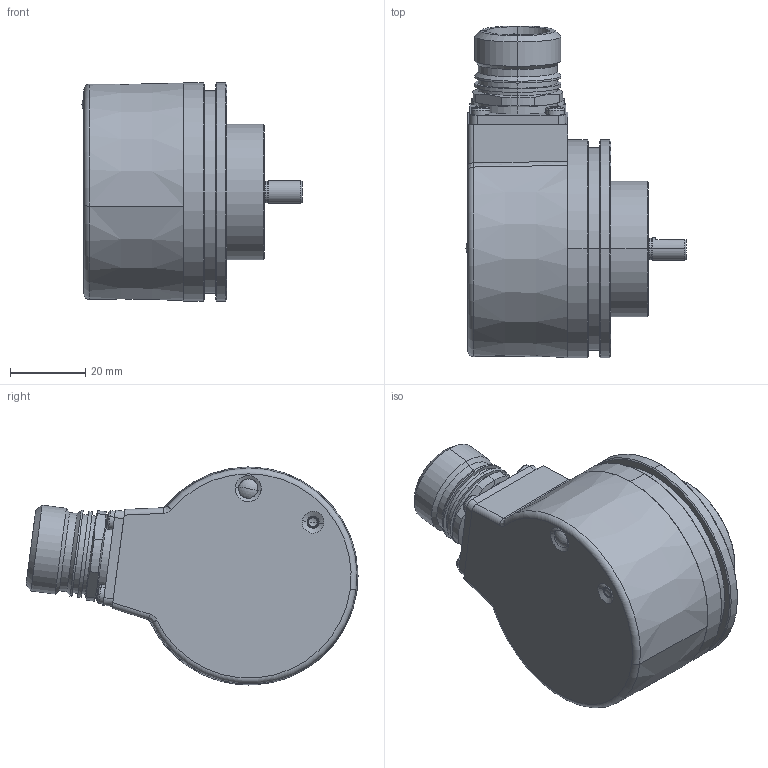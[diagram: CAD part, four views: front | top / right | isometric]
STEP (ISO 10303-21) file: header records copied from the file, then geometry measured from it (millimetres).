
FILE_DESCRIPTION (( 'STEP AP214' ), '1' );
FILE_NAME ('5853.1124.XXXX.STEP', '2009-01-09T09:36:17', ( 'admin' ), ( 'Fritz Kübler GmbH' ), 'SwSTEP 2.0', 'SolidWorks 2008', '' );
FILE_SCHEMA (( 'AUTOMOTIVE_DESIGN' ));
Length unit declared in the file: millimetre
Products named in the file (1): 5853.1124.XXXX
Bounding box: 58.52 x 88.3 x 58 mm (x, y, z)
Volume: 69159.3 mm3; surface area: 46845.1 mm2
Topology: 24 solids, 27 shells, 1155 faces, 2679 edges, 1611 vertices
Faces by surface type: cylinder 458, plane 258, cone 227, torus 128, sphere 56, bspline 28
Entity records: 46915 total; most frequent: CARTESIAN_POINT 7564, DIRECTION 6073, ORIENTED_EDGE 5130, AXIS2_PLACEMENT_3D 2591, EDGE_CURVE 2565, VERTEX_POINT 1581, CIRCLE 1463, EDGE_LOOP 1338
